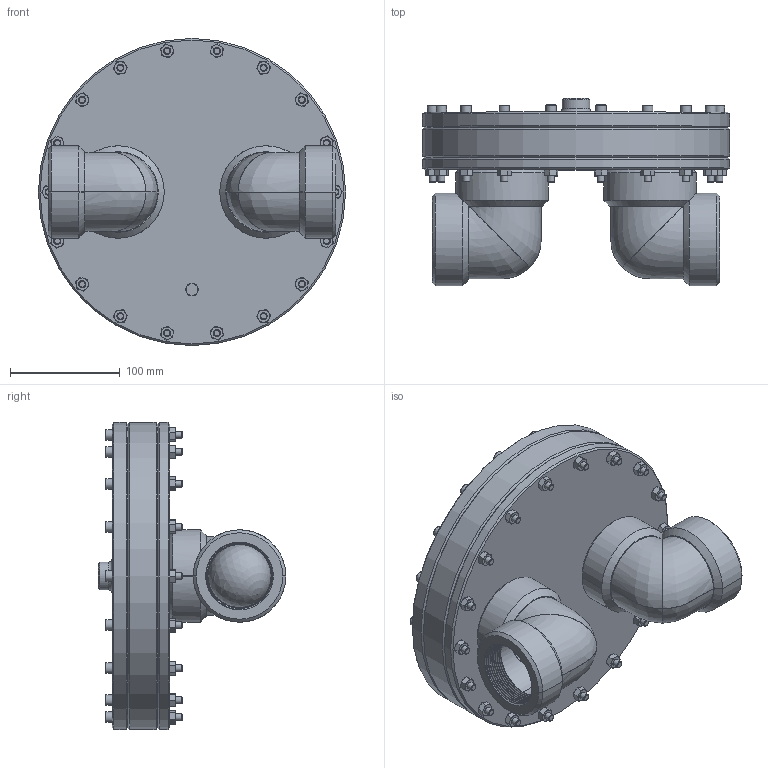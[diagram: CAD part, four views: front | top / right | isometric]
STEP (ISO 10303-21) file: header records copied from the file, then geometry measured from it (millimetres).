
FILE_DESCRIPTION(/* description */ (''),/* implementation_level */ '2;1');
FILE_NAME(/* name */ 'Z:\Models\NL_NLB Series\EB10NLB16\drawings\BD16SNxx External Assembly.stp',/* time_stamp */ '2018-03-02T17:39:14-05:00',/* author */ ('Owner'),/* organization */ (''),/* preprocessor_version */ 'ST-DEVELOPER v15.6',/* originating_system */ 'Autodesk Inventor 2015',/* authorisation */ '');
FILE_SCHEMA (('CONFIG_CONTROL_DESIGN'));
Length unit declared in the file: inch
Products named in the file (7): NLBD16 RC TR Study; NLBD16 SP TR External; NLBD16 BP R4; ANSI B18.3 - 1_4-28 UNF - 2.5(31); ANSI B18.2.2 - 1_4 - 28(2); 4443K619(1); BD16SNN4B Brochure View
Assembly tree (41 placements, depth 2):
  BD16SNN4B Brochure View
    NLBD16 RC TR Study
    NLBD16 SP TR External
    NLBD16 BP R4
    4443K619(1)  x2
    ANSI B18.3 - 1_4-28 UNF - 2.5(31)  x18
    ANSI B18.2.2 - 1_4 - 28(2)  x18
Bounding box: 279.4 x 170.56 x 279.4 mm (x, y, z)
Volume: 2301540.1 mm3; surface area: 620260.5 mm2
Topology: 39 solids, 191 shells, 972 faces, 2886 edges, 2174 vertices
Faces by surface type: cone 394, plane 354, cylinder 149, torus 49, bspline 24, sphere 2
Full cylindrical faces by diameter (mm): 3.175 x1, 5.359 x18, 6.35 x18, 6.528 x54, 9.525 x18, 10.719 x2, 25.4 x1, 60.325 x2, 92.329 x1, 99.644 x1, 231.8 x1, 238.887 x1, 244.475 x2, 251.536 x2, 279.4 x3
Entity records: 31601 total; most frequent: CARTESIAN_POINT 23884, DIRECTION 1402, ORIENTED_EDGE 1119, EDGE_CURVE 815, VERTEX_POINT 767, AXIS2_PLACEMENT_3D 611, EDGE_LOOP 486, CIRCLE 301
